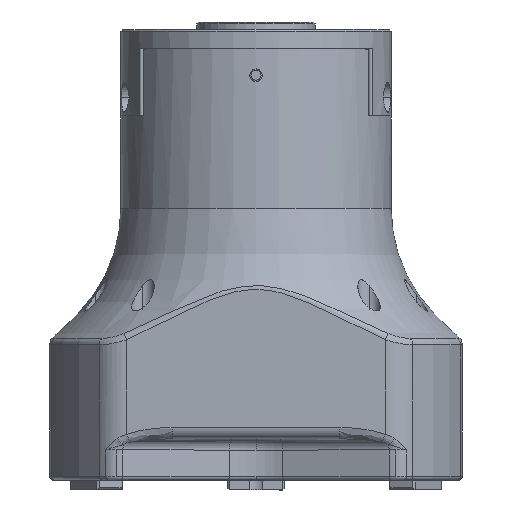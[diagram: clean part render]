
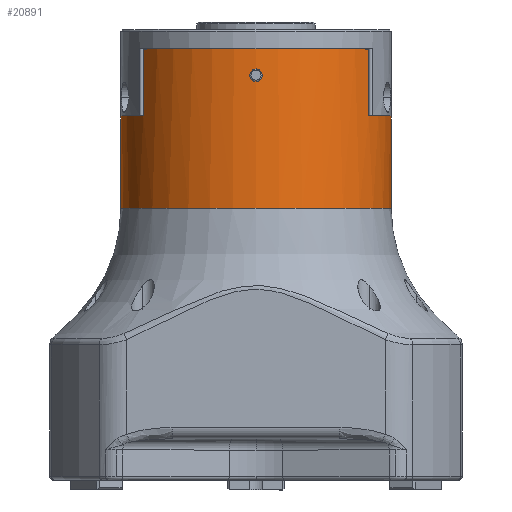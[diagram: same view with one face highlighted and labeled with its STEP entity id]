
A CAD part, top view. The second image highlights one B-rep face of the part: STEP entity #20891.
In plain terms, the highlighted cylindrical face has radius 36 mm (diameter 72 mm), a partial arc.
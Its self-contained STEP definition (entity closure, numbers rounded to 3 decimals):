
#691 = VERTEX_POINT ( 'NONE', #16877 ) ;
#904 = EDGE_CURVE ( 'NONE', #14340, #15947, #7161, .T. ) ;
#1170 = ORIENTED_EDGE ( 'NONE', *, *, #10608, .F. ) ;
#1216 = FACE_OUTER_BOUND ( 'NONE', #16865, .T. ) ;
#1262 = CARTESIAN_POINT ( 'NONE',  ( 0., 112.8, 0. ) ) ;
#1746 = ORIENTED_EDGE ( 'NONE', *, *, #8746, .T. ) ;
#1974 = LINE ( 'NONE', #9283, #3384 ) ;
#2562 = CARTESIAN_POINT ( 'NONE',  ( 30., 3325.027, 19.9 ) ) ;
#2936 = DIRECTION ( 'NONE',  ( 0., 1., 0. ) ) ;
#3136 = CARTESIAN_POINT ( 'NONE',  ( 0., 3325.027, 0. ) ) ;
#3161 = CIRCLE ( 'NONE', #4334, 36. ) ;
#3384 = VECTOR ( 'NONE', #16632, 1000. ) ;
#3549 = EDGE_CURVE ( 'NONE', #3832, #6604, #14396, .T. ) ;
#3832 = VERTEX_POINT ( 'NONE', #17975 ) ;
#4334 = AXIS2_PLACEMENT_3D ( 'NONE', #10628, #17563, #15932 ) ;
#4593 = EDGE_CURVE ( 'NONE', #11427, #15947, #1974, .T. ) ;
#4698 = DIRECTION ( 'NONE',  ( 0., 1., 0. ) ) ;
#5511 = CARTESIAN_POINT ( 'NONE',  ( 30., 112.8, 19.9 ) ) ;
#5763 = VERTEX_POINT ( 'NONE', #15386 ) ;
#5832 = CARTESIAN_POINT ( 'NONE',  ( -30., 95., 19.9 ) ) ;
#6383 = CARTESIAN_POINT ( 'NONE',  ( 0., 95., 0. ) ) ;
#6441 = CARTESIAN_POINT ( 'NONE',  ( 30., 95., 19.9 ) ) ;
#6604 = VERTEX_POINT ( 'NONE', #5511 ) ;
#6613 = DIRECTION ( 'NONE',  ( -1., 0., 0. ) ) ;
#7161 = CIRCLE ( 'NONE', #23212, 36. ) ;
#7701 = ORIENTED_EDGE ( 'NONE', *, *, #18030, .F. ) ;
#8584 = DIRECTION ( 'NONE',  ( 0., 1., 0. ) ) ;
#8639 = CARTESIAN_POINT ( 'NONE',  ( -36., 70.373, 0. ) ) ;
#8746 = EDGE_CURVE ( 'NONE', #11427, #5763, #3161, .T. ) ;
#9036 = AXIS2_PLACEMENT_3D ( 'NONE', #6383, #15863, #6613 ) ;
#9283 = CARTESIAN_POINT ( 'NONE',  ( -36., 3325.027, 0. ) ) ;
#10089 = DIRECTION ( 'NONE',  ( 0., -1., 0. ) ) ;
#10294 = ORIENTED_EDGE ( 'NONE', *, *, #4593, .F. ) ;
#10314 = DIRECTION ( 'NONE',  ( 1., 0., 0. ) ) ;
#10348 = DIRECTION ( 'NONE',  ( 0., 0., -1. ) ) ;
#10467 = LINE ( 'NONE', #21249, #18366 ) ;
#10608 = EDGE_CURVE ( 'NONE', #14340, #3832, #11863, .T. ) ;
#10628 = CARTESIAN_POINT ( 'NONE',  ( 0., 70.373, 0. ) ) ;
#10672 = VECTOR ( 'NONE', #10089, 1000. ) ;
#11095 = CARTESIAN_POINT ( 'NONE',  ( -36., 95., 0. ) ) ;
#11231 = VECTOR ( 'NONE', #19421, 1000. ) ;
#11427 = VERTEX_POINT ( 'NONE', #8639 ) ;
#11663 = LINE ( 'NONE', #2562, #10672 ) ;
#11759 = CARTESIAN_POINT ( 'NONE',  ( 0., 95., 0. ) ) ;
#11863 = LINE ( 'NONE', #12121, #11231 ) ;
#12121 = CARTESIAN_POINT ( 'NONE',  ( -30., 3325.027, 19.9 ) ) ;
#13224 = DIRECTION ( 'NONE',  ( 0., -1., 0. ) ) ;
#13385 = ORIENTED_EDGE ( 'NONE', *, *, #3549, .F. ) ;
#14340 = VERTEX_POINT ( 'NONE', #5832 ) ;
#14396 = CIRCLE ( 'NONE', #18138, 36. ) ;
#14400 = VERTEX_POINT ( 'NONE', #6441 ) ;
#15276 = DIRECTION ( 'NONE',  ( 1., 0., 0. ) ) ;
#15386 = CARTESIAN_POINT ( 'NONE',  ( 36., 70.373, 0. ) ) ;
#15635 = CYLINDRICAL_SURFACE ( 'NONE', #18967, 36. ) ;
#15754 = EDGE_CURVE ( 'NONE', #5763, #691, #10467, .T. ) ;
#15863 = DIRECTION ( 'NONE',  ( 0., 1., 0. ) ) ;
#15932 = DIRECTION ( 'NONE',  ( 1., 0., 0. ) ) ;
#15947 = VERTEX_POINT ( 'NONE', #11095 ) ;
#16632 = DIRECTION ( 'NONE',  ( 0., 1., 0. ) ) ;
#16865 = EDGE_LOOP ( 'NONE', ( #10294, #1746, #20893, #17558, #7701, #13385, #1170, #20774 ) ) ;
#16877 = CARTESIAN_POINT ( 'NONE',  ( 36., 95., 0. ) ) ;
#17558 = ORIENTED_EDGE ( 'NONE', *, *, #20927, .F. ) ;
#17563 = DIRECTION ( 'NONE',  ( 0., 1., 0. ) ) ;
#17975 = CARTESIAN_POINT ( 'NONE',  ( -30., 112.8, 19.9 ) ) ;
#18030 = EDGE_CURVE ( 'NONE', #6604, #14400, #11663, .T. ) ;
#18138 = AXIS2_PLACEMENT_3D ( 'NONE', #1262, #8584, #10348 ) ;
#18366 = VECTOR ( 'NONE', #2936, 1000. ) ;
#18967 = AXIS2_PLACEMENT_3D ( 'NONE', #3136, #4698, #10314 ) ;
#19373 = CIRCLE ( 'NONE', #9036, 36. ) ;
#19421 = DIRECTION ( 'NONE',  ( 0., 1., 0. ) ) ;
#20774 = ORIENTED_EDGE ( 'NONE', *, *, #904, .T. ) ;
#20891 = ADVANCED_FACE ( 'NONE', ( #1216 ), #15635, .T. ) ;
#20893 = ORIENTED_EDGE ( 'NONE', *, *, #15754, .T. ) ;
#20927 = EDGE_CURVE ( 'NONE', #14400, #691, #19373, .T. ) ;
#21249 = CARTESIAN_POINT ( 'NONE',  ( 36., 3325.027, 0. ) ) ;
#23212 = AXIS2_PLACEMENT_3D ( 'NONE', #11759, #13224, #15276 ) ;
